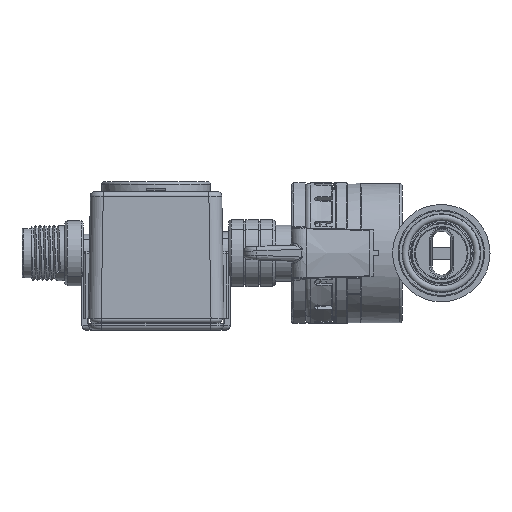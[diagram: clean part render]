
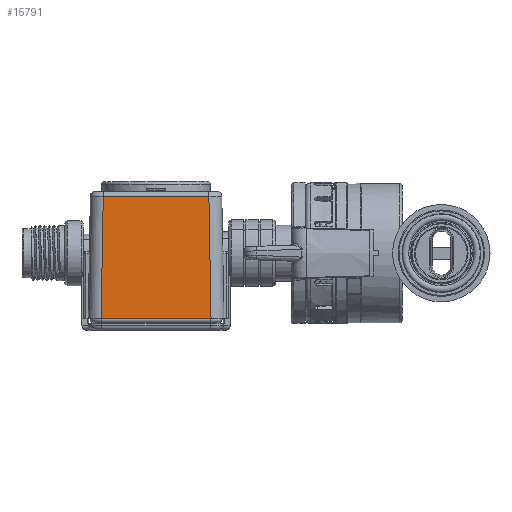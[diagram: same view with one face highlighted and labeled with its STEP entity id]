
A CAD part, left-side view. The second image highlights one B-rep face of the part: STEP entity #15791.
In plain terms, the highlighted planar face has unit normal (-1, 0, 0.018).
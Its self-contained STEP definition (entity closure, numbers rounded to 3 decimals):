
#15791=ADVANCED_FACE('',(#17935),#16626,.F.);
#16626=PLANE('',#41226);
#17935=FACE_OUTER_BOUND('',#19720,.T.);
#19720=EDGE_LOOP('',(#26549,#26550,#26551,#26552));
#26549=ORIENTED_EDGE('',*,*,#34505,.T.);
#26550=ORIENTED_EDGE('',*,*,#34271,.F.);
#26551=ORIENTED_EDGE('',*,*,#34402,.F.);
#26552=ORIENTED_EDGE('',*,*,#34396,.T.);
#30542=VERTEX_POINT('',#67837);
#30543=VERTEX_POINT('',#67839);
#30611=VERTEX_POINT('',#68131);
#30613=VERTEX_POINT('',#68157);
#34271=EDGE_CURVE('',#30542,#30543,#36488,.T.);
#34396=EDGE_CURVE('',#30611,#30613,#36577,.T.);
#34402=EDGE_CURVE('',#30611,#30542,#36583,.T.);
#34505=EDGE_CURVE('',#30613,#30543,#36666,.T.);
#36488=LINE('',#67838,#38359);
#36577=LINE('',#68158,#38448);
#36583=LINE('',#68169,#38454);
#36666=LINE('',#68401,#38537);
#38359=VECTOR('',#47275,1.);
#38448=VECTOR('',#47508,1.);
#38454=VECTOR('',#47520,1.);
#38537=VECTOR('',#47729,1.);
#41226=AXIS2_PLACEMENT_3D('',#68402,#47730,#47731);
#47275=DIRECTION('',(0.,1.,0.));
#47508=DIRECTION('',(0.,1.,0.));
#47520=DIRECTION('',(-0.017,-0.017,-1.));
#47729=DIRECTION('',(-0.017,0.017,-1.));
#47730=DIRECTION('',(1.,0.,-0.017));
#47731=DIRECTION('',(0.017,0.,1.));
#67837=CARTESIAN_POINT('',(-66.173,29.905,-14.045));
#67838=CARTESIAN_POINT('',(-66.173,49.065,-14.045));
#67839=CARTESIAN_POINT('',(-66.173,53.555,-14.045));
#68131=CARTESIAN_POINT('',(-65.714,30.364,12.249));
#68157=CARTESIAN_POINT('',(-65.714,53.096,12.249));
#68158=CARTESIAN_POINT('',(-65.714,49.065,12.249));
#68169=CARTESIAN_POINT('',(-66.269,29.809,-19.543));
#68401=CARTESIAN_POINT('',(-66.269,53.651,-19.543));
#68402=CARTESIAN_POINT('',(-66.271,49.065,-19.623));
